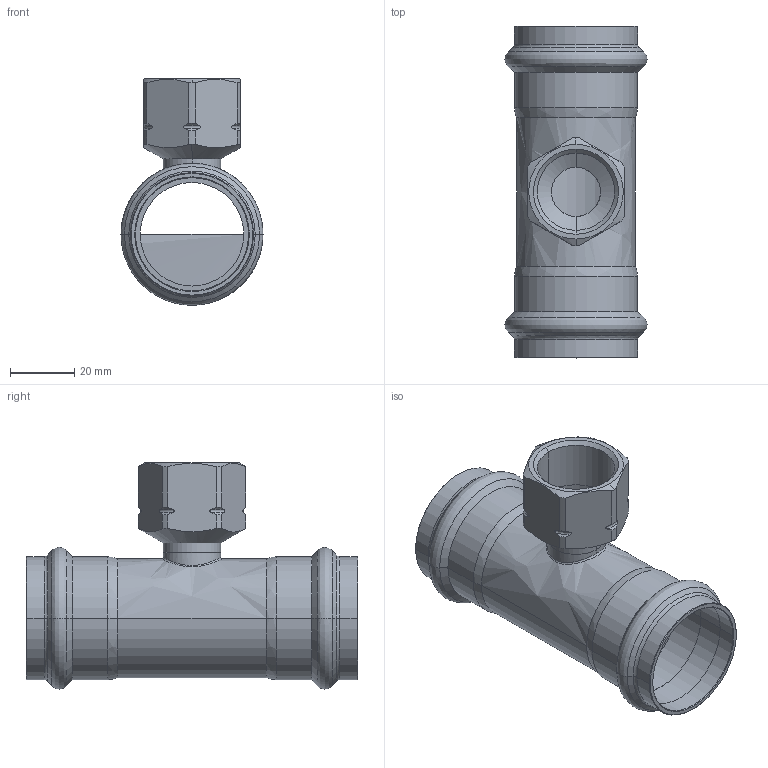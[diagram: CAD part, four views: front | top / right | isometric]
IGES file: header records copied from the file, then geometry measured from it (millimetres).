
Start section: Elysium IGES Interface
Global section: file name: C:\3d modellen sudo\C-Pr VP\SP8130GV\8130GVW353435.igs; native system: CoCreate Modeling 17.00A  17-Jun-2010; preprocessor: CoCreate IGES_3D V2.2; author: Unknown; organization: Unknown; date: 20130212.125759; units: millimetre
Bounding box: 44.3 x 103.51 x 70.63 mm (x, y, z)
Volume: 30104.5 mm3; surface area: 30437.8 mm2
Topology: 1 solids, 1 shells, 135 faces, 330 edges, 194 vertices
Faces by surface type: bspline 135
